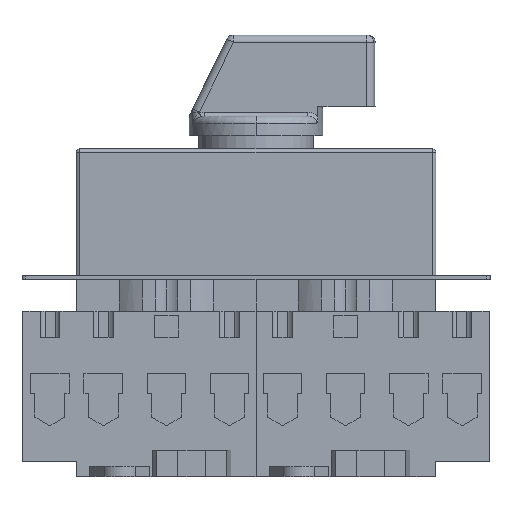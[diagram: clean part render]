
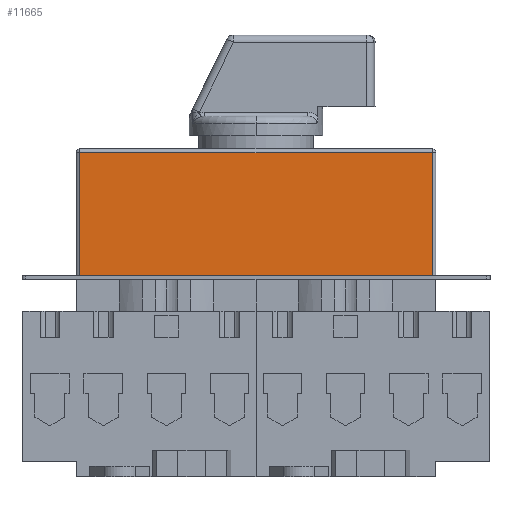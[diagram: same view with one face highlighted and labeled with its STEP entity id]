
A CAD part, top view. The second image highlights one B-rep face of the part: STEP entity #11665.
In plain terms, the highlighted planar face has unit normal (0, 0, 1) as drawn and (-1, 0, 0) by its records, which use the part's own axes.
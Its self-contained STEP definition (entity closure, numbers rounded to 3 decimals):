
#3 = VECTOR ( 'NONE', #2373, 1000. ) ;
#112 = LINE ( 'NONE', #9341, #12258 ) ;
#1047 = CARTESIAN_POINT ( 'NONE',  ( -22.5, 1., 47.2 ) ) ;
#1489 = ORIENTED_EDGE ( 'NONE', *, *, #5560, .T. ) ;
#1879 = VECTOR ( 'NONE', #7981, 1000. ) ;
#2092 = CARTESIAN_POINT ( 'NONE',  ( -22.5, 35., -47.2 ) ) ;
#2281 = VERTEX_POINT ( 'NONE', #3503 ) ;
#2373 = DIRECTION ( 'NONE',  ( 0., 0., -1. ) ) ;
#2449 = VERTEX_POINT ( 'NONE', #14686 ) ;
#2960 = VECTOR ( 'NONE', #10571, 1000. ) ;
#3068 = EDGE_CURVE ( 'NONE', #11731, #2449, #14419, .T. ) ;
#3319 = DIRECTION ( 'NONE',  ( 0., 0., 1. ) ) ;
#3503 = CARTESIAN_POINT ( 'NONE',  ( -22.5, 1., -47.2 ) ) ;
#3504 = CARTESIAN_POINT ( 'NONE',  ( -22.5, 34., -47.2 ) ) ;
#4560 = DIRECTION ( 'NONE',  ( 0., 0., -1. ) ) ;
#5555 = EDGE_CURVE ( 'NONE', #7337, #2281, #6187, .T. ) ;
#5560 = EDGE_CURVE ( 'NONE', #2281, #11731, #112, .T. ) ;
#5709 = PLANE ( 'NONE',  #13286 ) ;
#5961 = CARTESIAN_POINT ( 'NONE',  ( -22.5, 34., 48.2 ) ) ;
#6187 = LINE ( 'NONE', #2092, #2960 ) ;
#7337 = VERTEX_POINT ( 'NONE', #3504 ) ;
#7981 = DIRECTION ( 'NONE',  ( 0., 1., 0. ) ) ;
#8883 = ORIENTED_EDGE ( 'NONE', *, *, #5555, .T. ) ;
#9236 = CARTESIAN_POINT ( 'NONE',  ( -22.5, 35., 47.2 ) ) ;
#9341 = CARTESIAN_POINT ( 'NONE',  ( -22.5, 1., 48.2 ) ) ;
#9406 = FACE_OUTER_BOUND ( 'NONE', #12902, .T. ) ;
#9702 = EDGE_CURVE ( 'NONE', #2449, #7337, #13298, .T. ) ;
#10025 = ORIENTED_EDGE ( 'NONE', *, *, #9702, .T. ) ;
#10571 = DIRECTION ( 'NONE',  ( 0., -1., 0. ) ) ;
#11279 = ORIENTED_EDGE ( 'NONE', *, *, #3068, .T. ) ;
#11665 = ADVANCED_FACE ( 'NONE', ( #9406 ), #5709, .F. ) ;
#11731 = VERTEX_POINT ( 'NONE', #1047 ) ;
#11813 = DIRECTION ( 'NONE',  ( 1., 0., 0. ) ) ;
#12258 = VECTOR ( 'NONE', #3319, 1000. ) ;
#12902 = EDGE_LOOP ( 'NONE', ( #1489, #11279, #10025, #8883 ) ) ;
#13286 = AXIS2_PLACEMENT_3D ( 'NONE', #15420, #11813, #4560 ) ;
#13298 = LINE ( 'NONE', #5961, #3 ) ;
#14419 = LINE ( 'NONE', #9236, #1879 ) ;
#14686 = CARTESIAN_POINT ( 'NONE',  ( -22.5, 34., 47.2 ) ) ;
#15420 = CARTESIAN_POINT ( 'NONE',  ( -22.5, 35., 48.2 ) ) ;
